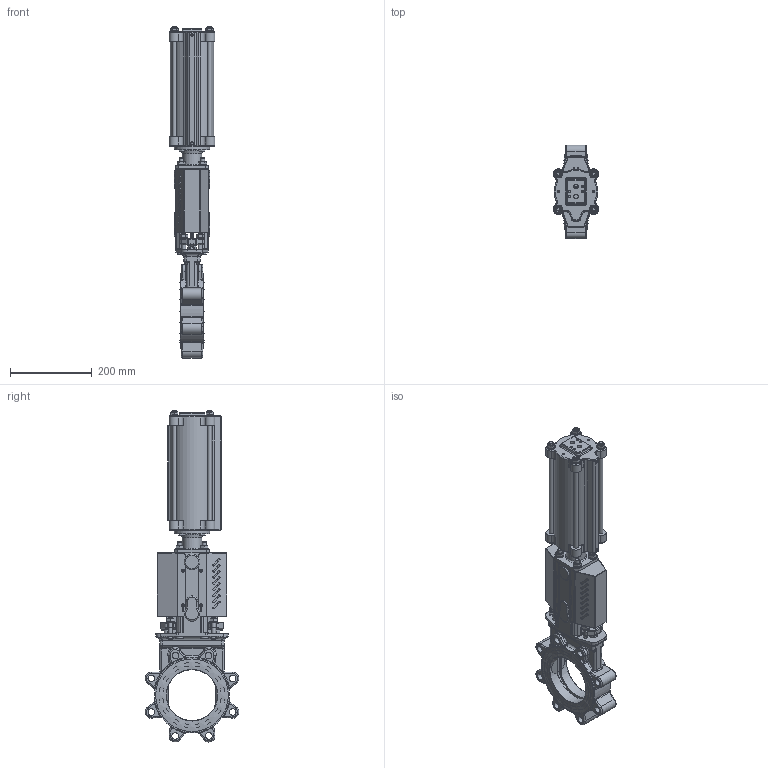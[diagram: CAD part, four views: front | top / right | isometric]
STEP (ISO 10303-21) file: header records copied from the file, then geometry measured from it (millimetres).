
FILE_DESCRIPTION(/* description */ (''),/* implementation_level */ '2;1');
FILE_NAME(/* name */ 'F:\Emir\3D-block special\WB\WB14-DN125-PN10-FRSC100-165.stp',/* time_stamp */ '2018-08-20T15:44:28+02:00',/* author */ ('emimus'),/* organization */ (''),/* preprocessor_version */ 'ST-DEVELOPER v17',/* originating_system */ 'Autodesk Inventor 2018',/* authorisation */ '');
FILE_SCHEMA (('CONFIG_CONTROL_DESIGN'));
Products named in the file (1): WB14-DN125-PN10-FRSC100-165
Bounding box: 112.17 x 229.53 x 814.26 mm (x, y, z)
Volume: 3202522.8 mm3; surface area: 1012203.9 mm2
Topology: 5 solids, 5 shells, 2614 faces, 6648 edges, 4039 vertices
Faces by surface type: plane 897, cylinder 760, bspline 309, torus 304, cone 246, sphere 98
Full cylindrical faces by diameter (mm): 3 x10, 4 x4, 4.134 x4, 4.2 x16, 4.5 x4, 4.917 x4, 6 x7, 8 x7, 8.376 x4, 9 x2, 10 x32, 10.106 x1, 10.5 x12, 11 x8, 11.445 x2, 11.63 x4, 14 x1, 14.376 x1, 15 x5, 16.307 x10, 20 x13, 20.15 x2, 22 x1, 24 x3, 26 x1, 26.4 x1, 28 x2, 35 x1, 40 x1, 48 x1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
Entity records: 101781 total; most frequent: CARTESIAN_POINT 39750, DIRECTION 13189, ORIENTED_EDGE 13104, EDGE_CURVE 6552, AXIS2_PLACEMENT_3D 5348, VERTEX_POINT 4039, EDGE_LOOP 2881, CIRCLE 2868
